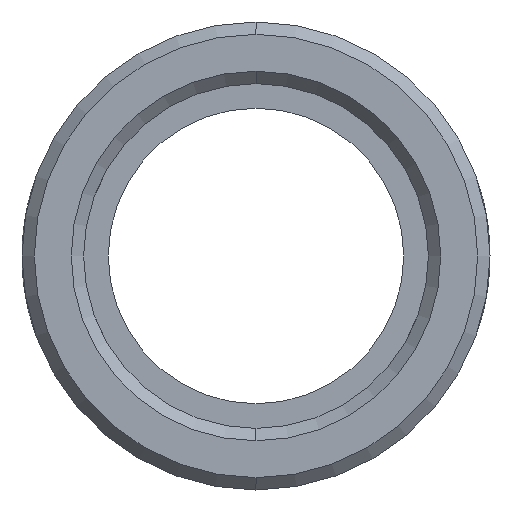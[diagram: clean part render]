
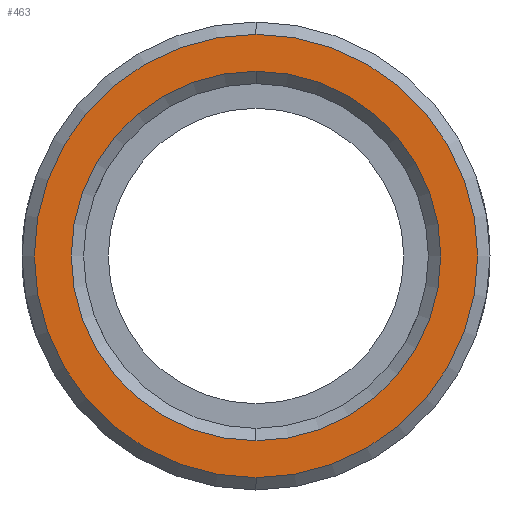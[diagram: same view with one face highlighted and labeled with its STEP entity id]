
A CAD part, left-side view. The second image highlights one B-rep face of the part: STEP entity #463.
In plain terms, the highlighted planar face has unit normal (-1, 0, 0).
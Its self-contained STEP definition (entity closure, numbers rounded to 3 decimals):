
#40 = DIRECTION ( 'NONE',  ( 0., 0., -1. ) ) ;
#52 = AXIS2_PLACEMENT_3D ( 'NONE', #438, #790, #235 ) ;
#66 = VERTEX_POINT ( 'NONE', #574 ) ;
#125 = AXIS2_PLACEMENT_3D ( 'NONE', #251, #590, #609 ) ;
#131 = PLANE ( 'NONE',  #1001 ) ;
#164 = CIRCLE ( 'NONE', #125, 9. ) ;
#210 = CIRCLE ( 'NONE', #1427, 7.5 ) ;
#216 = CIRCLE ( 'NONE', #365, 9. ) ;
#235 = DIRECTION ( 'NONE',  ( 0., 0., -1. ) ) ;
#251 = CARTESIAN_POINT ( 'NONE',  ( 0., 0., 0. ) ) ;
#260 = CARTESIAN_POINT ( 'NONE',  ( 0., 0., 9. ) ) ;
#277 = DIRECTION ( 'NONE',  ( -1., 0., 0. ) ) ;
#280 = DIRECTION ( 'NONE',  ( 0., 0., -1. ) ) ;
#320 = ORIENTED_EDGE ( 'NONE', *, *, #1294, .T. ) ;
#332 = DIRECTION ( 'NONE',  ( 0., 0., -1. ) ) ;
#338 = CARTESIAN_POINT ( 'NONE',  ( 0., 0., 0. ) ) ;
#365 = AXIS2_PLACEMENT_3D ( 'NONE', #338, #277, #280 ) ;
#424 = CARTESIAN_POINT ( 'NONE',  ( 0., 0., 0. ) ) ;
#438 = CARTESIAN_POINT ( 'NONE',  ( 0., 0., 0. ) ) ;
#463 = ADVANCED_FACE ( 'NONE', ( #634, #1074 ), #131, .F. ) ;
#474 = ORIENTED_EDGE ( 'NONE', *, *, #1471, .T. ) ;
#476 = VERTEX_POINT ( 'NONE', #1130 ) ;
#484 = DIRECTION ( 'NONE',  ( 1., 0., 0. ) ) ;
#519 = CARTESIAN_POINT ( 'NONE',  ( 0., 7., 0. ) ) ;
#543 = EDGE_LOOP ( 'NONE', ( #474, #1433 ) ) ;
#574 = CARTESIAN_POINT ( 'NONE',  ( 0., 0., 7.5 ) ) ;
#590 = DIRECTION ( 'NONE',  ( -1., 0., 0. ) ) ;
#609 = DIRECTION ( 'NONE',  ( 0., 0., -1. ) ) ;
#634 = FACE_BOUND ( 'NONE', #1042, .T. ) ;
#660 = ORIENTED_EDGE ( 'NONE', *, *, #1344, .T. ) ;
#724 = VERTEX_POINT ( 'NONE', #260 ) ;
#790 = DIRECTION ( 'NONE',  ( 1., 0., 0. ) ) ;
#872 = VERTEX_POINT ( 'NONE', #1077 ) ;
#961 = CIRCLE ( 'NONE', #52, 7.5 ) ;
#985 = DIRECTION ( 'NONE',  ( 1., 0., 0. ) ) ;
#1001 = AXIS2_PLACEMENT_3D ( 'NONE', #519, #985, #40 ) ;
#1042 = EDGE_LOOP ( 'NONE', ( #660, #320 ) ) ;
#1074 = FACE_OUTER_BOUND ( 'NONE', #543, .T. ) ;
#1077 = CARTESIAN_POINT ( 'NONE',  ( 0., 0., -7.5 ) ) ;
#1130 = CARTESIAN_POINT ( 'NONE',  ( 0., 0., -9. ) ) ;
#1294 = EDGE_CURVE ( 'NONE', #872, #66, #961, .T. ) ;
#1344 = EDGE_CURVE ( 'NONE', #66, #872, #210, .T. ) ;
#1427 = AXIS2_PLACEMENT_3D ( 'NONE', #424, #484, #332 ) ;
#1433 = ORIENTED_EDGE ( 'NONE', *, *, #1491, .T. ) ;
#1471 = EDGE_CURVE ( 'NONE', #476, #724, #216, .T. ) ;
#1491 = EDGE_CURVE ( 'NONE', #724, #476, #164, .T. ) ;
